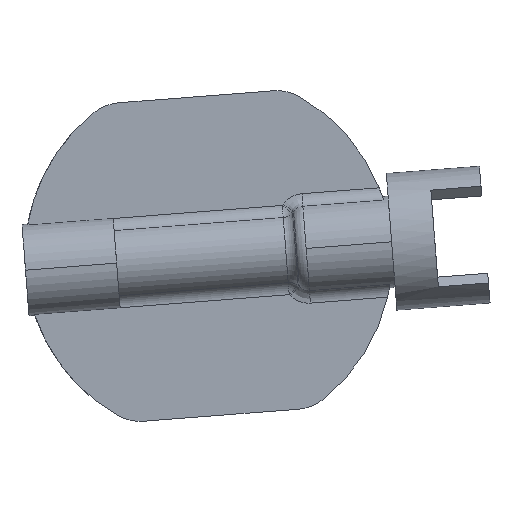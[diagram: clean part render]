
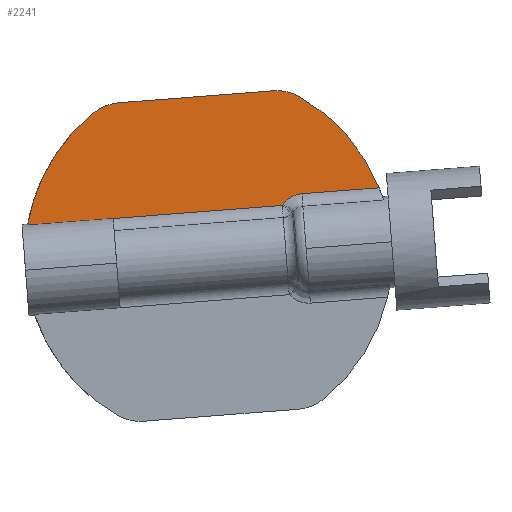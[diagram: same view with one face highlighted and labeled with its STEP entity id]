
A CAD part, front view. The second image highlights one B-rep face of the part: STEP entity #2241.
In plain terms, the highlighted planar face has unit normal (0, -1, 0).
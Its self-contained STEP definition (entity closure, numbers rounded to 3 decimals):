
#1=DIRECTION('',(-0.997,0.,-0.077));
#2=VECTOR('',#1,18.559);
#3=CARTESIAN_POINT('',(528.715,-1.,-141.813));
#4=LINE('',#3,#2);
#5=DIRECTION('',(-0.997,0.,-0.077));
#6=VECTOR('',#5,9.394);
#7=CARTESIAN_POINT('',(510.212,-1.,-143.246));
#8=LINE('',#7,#6);
#9=CARTESIAN_POINT('',(511.226,-1.,-135.566));
#10=DIRECTION('',(0.,-1.,0.));
#11=DIRECTION('',(-0.077,0.,0.997));
#12=AXIS2_PLACEMENT_3D('',#9,#10,#11);
#14=DIRECTION('',(0.997,0.,0.077));
#15=VECTOR('',#14,16.971);
#16=CARTESIAN_POINT('',(510.84,-1.,-130.581));
#17=LINE('',#16,#15);
#18=CARTESIAN_POINT('',(528.146,-1.,-134.255));
#19=DIRECTION('',(0.,-1.,0.));
#20=DIRECTION('',(0.497,0.,0.868));
#21=AXIS2_PLACEMENT_3D('',#18,#19,#20);
#23=DIRECTION('',(-0.997,0.,-0.077));
#24=VECTOR('',#23,8.462);
#25=CARTESIAN_POINT('',(539.302,-1.,-139.888));
#26=LINE('',#25,#24);
#27=CARTESIAN_POINT('',(530.866,-1.,-140.542));
#28=CARTESIAN_POINT('',(530.752,-1.,-140.551));
#29=CARTESIAN_POINT('',(530.53,-1.,-140.582));
#30=CARTESIAN_POINT('',(530.215,-1.,-140.665));
#31=CARTESIAN_POINT('',(529.907,-1.,-140.786));
#32=CARTESIAN_POINT('',(529.613,-1.,-140.944));
#33=CARTESIAN_POINT('',(529.336,-1.,-141.138));
#34=CARTESIAN_POINT('',(529.067,-1.,-141.378));
#35=CARTESIAN_POINT('',(528.903,-1.,-141.566));
#36=CARTESIAN_POINT('',(528.825,-1.,-141.668));
#38=CARTESIAN_POINT('',(528.825,-1.,-141.668));
#39=CARTESIAN_POINT('',(528.813,-1.,-141.684));
#40=CARTESIAN_POINT('',(528.789,-1.,-141.716));
#41=CARTESIAN_POINT('',(528.752,-1.,-141.764));
#42=CARTESIAN_POINT('',(528.727,-1.,-141.796));
#43=CARTESIAN_POINT('',(528.715,-1.,-141.813));
#1519=CARTESIAN_POINT('',(520.65,-1.,-147.351));
#1520=DIRECTION('',(0.,-1.,0.));
#1521=DIRECTION('',(-0.625,0.,0.781));
#1522=AXIS2_PLACEMENT_3D('',#1519,#1520,#1521);
#1572=CARTESIAN_POINT('',(520.65,-1.,-147.351));
#1573=DIRECTION('',(0.,-1.,0.));
#1574=DIRECTION('',(0.928,0.,0.371));
#1575=AXIS2_PLACEMENT_3D('',#1572,#1573,#1574);
#1826=CARTESIAN_POINT('',(510.84,-1.,-130.581));
#1827=CARTESIAN_POINT('',(508.104,-1.,-131.661));
#1828=VERTEX_POINT('',#1826);
#1829=VERTEX_POINT('',#1827);
#1842=CARTESIAN_POINT('',(530.63,-1.,-129.915));
#1843=CARTESIAN_POINT('',(527.76,-1.,-129.27));
#1844=VERTEX_POINT('',#1842);
#1845=VERTEX_POINT('',#1843);
#1851=CARTESIAN_POINT('',(510.212,-1.,-143.246));
#1853=VERTEX_POINT('',#1851);
#1854=CARTESIAN_POINT('',(528.715,-1.,-141.813));
#1855=VERTEX_POINT('',#1854);
#1860=VERTEX_POINT('',#38);
#1866=CARTESIAN_POINT('',(539.302,-1.,-139.888));
#1867=CARTESIAN_POINT('',(530.866,-1.,-140.542));
#1868=VERTEX_POINT('',#1866);
#1869=VERTEX_POINT('',#1867);
#1924=CARTESIAN_POINT('',(500.846,-1.,-143.972));
#1925=VERTEX_POINT('',#1924);
#2214=CARTESIAN_POINT('',(0.,-1.,0.));
#2215=DIRECTION('',(0.,1.,0.));
#2216=DIRECTION('',(1.,0.,0.));
#2217=AXIS2_PLACEMENT_3D('',#2214,#2215,#2216);
#2218=PLANE('',#2217);
#2220=ORIENTED_EDGE('',*,*,#2219,.T.);
#2222=ORIENTED_EDGE('',*,*,#2221,.T.);
#2224=ORIENTED_EDGE('',*,*,#2223,.F.);
#2226=ORIENTED_EDGE('',*,*,#2225,.F.);
#2228=ORIENTED_EDGE('',*,*,#2227,.T.);
#2230=ORIENTED_EDGE('',*,*,#2229,.F.);
#2232=ORIENTED_EDGE('',*,*,#2231,.F.);
#2234=ORIENTED_EDGE('',*,*,#2233,.T.);
#2236=ORIENTED_EDGE('',*,*,#2235,.T.);
#2238=ORIENTED_EDGE('',*,*,#2237,.T.);
#2239=EDGE_LOOP('',(#2220,#2222,#2224,#2226,#2228,#2230,#2232,#2234,#2236,
#2238));
#2240=FACE_OUTER_BOUND('',#2239,.F.);
#2241=ADVANCED_FACE('',(#2240),#2218,.F.);
#13=CIRCLE('',#12,5.);
#22=CIRCLE('',#21,5.);
#37=B_SPLINE_CURVE_WITH_KNOTS('',3,(#27,#28,#29,#30,#31,#32,#33,#34,#35,#36),
.UNSPECIFIED.,.F.,.F.,(4,1,1,1,1,1,1,4),(0.,0.143,
0.286,0.429,0.571,0.714,
0.857,1.),.UNSPECIFIED.);
#44=B_SPLINE_CURVE_WITH_KNOTS('',3,(#38,#39,#40,#41,#42,#43),.UNSPECIFIED.,.F.,
.F.,(4,1,1,4),(0.,0.333,0.667,1.),.UNSPECIFIED.);
#1523=CIRCLE('',#1522,20.09);
#1576=CIRCLE('',#1575,20.09);
#2219=EDGE_CURVE('',#1855,#1853,#4,.T.);
#2221=EDGE_CURVE('',#1853,#1925,#8,.T.);
#2223=EDGE_CURVE('',#1829,#1925,#1523,.T.);
#2225=EDGE_CURVE('',#1828,#1829,#13,.T.);
#2227=EDGE_CURVE('',#1828,#1845,#17,.T.);
#2229=EDGE_CURVE('',#1844,#1845,#22,.T.);
#2231=EDGE_CURVE('',#1868,#1844,#1576,.T.);
#2233=EDGE_CURVE('',#1868,#1869,#26,.T.);
#2235=EDGE_CURVE('',#1869,#1860,#37,.T.);
#2237=EDGE_CURVE('',#1860,#1855,#44,.T.);
